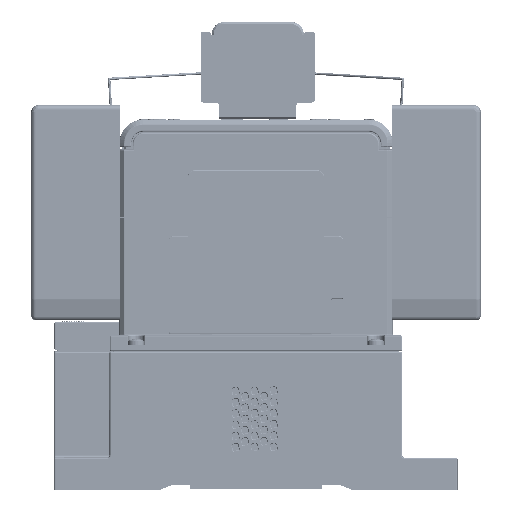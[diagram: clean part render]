
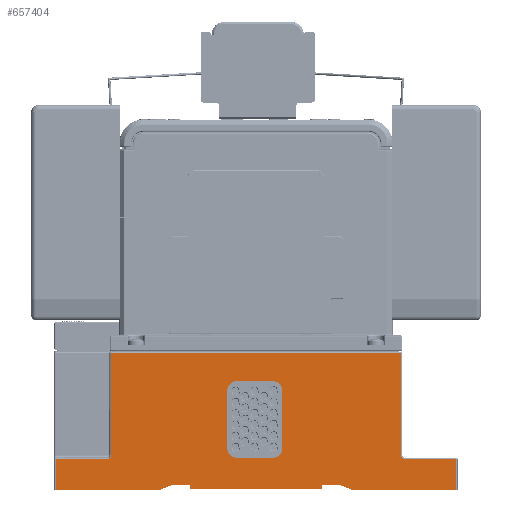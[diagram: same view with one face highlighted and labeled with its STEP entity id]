
A CAD part, left-side view. The second image highlights one B-rep face of the part: STEP entity #657404.
In plain terms, the highlighted planar face has unit normal (-1, 0, 0).
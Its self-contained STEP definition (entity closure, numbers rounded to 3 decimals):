
#108295=DIRECTION('',(0.,-1.,0.));
#108296=VECTOR('',#108295,43.4);
#108297=CARTESIAN_POINT('',(-60.,83.6,-2.));
#108298=LINE('',#108297,#108296);
#108641=DIRECTION('',(0.,0.,-1.));
#108642=VECTOR('',#108641,42.5);
#108643=CARTESIAN_POINT('',(-60.,60.5,55.));
#108644=LINE('',#108643,#108642);
#108645=CARTESIAN_POINT('',(-60.,62.,12.5));
#108646=DIRECTION('',(1.,0.,0.));
#108647=DIRECTION('',(0.,-1.,0.));
#108648=AXIS2_PLACEMENT_3D('',#108645,#108646,#108647);
#108655=DIRECTION('',(0.,-1.,0.));
#108656=VECTOR('',#108655,21.6);
#108657=CARTESIAN_POINT('',(-60.,83.6,11.));
#108658=LINE('',#108657,#108656);
#108659=DIRECTION('',(0.,-1.,0.));
#108660=VECTOR('',#108659,121.);
#108661=CARTESIAN_POINT('',(-60.,60.5,55.));
#108662=LINE('',#108661,#108660);
#108663=DIRECTION('',(0.,-1.,0.));
#108664=VECTOR('',#108663,21.6);
#108665=CARTESIAN_POINT('',(-60.,-62.,11.));
#108666=LINE('',#108665,#108664);
#108667=DIRECTION('',(0.,0.,1.));
#108668=VECTOR('',#108667,13.);
#108669=CARTESIAN_POINT('',(-60.,-83.6,-2.));
#108670=LINE('',#108669,#108668);
#108671=DIRECTION('',(0.,-0.928,-0.371));
#108672=VECTOR('',#108671,5.385);
#108673=CARTESIAN_POINT('',(-60.,-35.2,0.));
#108674=LINE('',#108673,#108672);
#108675=DIRECTION('',(0.,0.,-1.));
#108676=VECTOR('',#108675,1.5);
#108677=CARTESIAN_POINT('',(-60.,-27.75,0.));
#108678=LINE('',#108677,#108676);
#108679=DIRECTION('',(0.,-0.928,0.371));
#108680=VECTOR('',#108679,5.385);
#108681=CARTESIAN_POINT('',(-60.,40.2,-2.));
#108682=LINE('',#108681,#108680);
#108683=DIRECTION('',(0.,0.,-1.));
#108684=VECTOR('',#108683,13.);
#108685=CARTESIAN_POINT('',(-60.,83.6,11.));
#108686=LINE('',#108685,#108684);
#108687=CARTESIAN_POINT('',(-60.,8.,39.449));
#108688=DIRECTION('',(-1.,0.,0.));
#108689=DIRECTION('',(0.,0.,1.));
#108690=AXIS2_PLACEMENT_3D('',#108687,#108688,#108689);
#108692=DIRECTION('',(0.,0.,-1.));
#108693=VECTOR('',#108692,24.);
#108694=CARTESIAN_POINT('',(-60.,12.,39.449));
#108695=LINE('',#108694,#108693);
#108696=CARTESIAN_POINT('',(-60.,8.,15.449));
#108697=DIRECTION('',(-1.,0.,0.));
#108698=DIRECTION('',(0.,1.,0.));
#108699=AXIS2_PLACEMENT_3D('',#108696,#108697,#108698);
#108701=DIRECTION('',(0.,-1.,0.));
#108702=VECTOR('',#108701,15.);
#108703=CARTESIAN_POINT('',(-60.,8.,11.449));
#108704=LINE('',#108703,#108702);
#108705=CARTESIAN_POINT('',(-60.,-7.,15.449));
#108706=DIRECTION('',(-1.,0.,0.));
#108707=DIRECTION('',(0.,0.,-1.));
#108708=AXIS2_PLACEMENT_3D('',#108705,#108706,#108707);
#108710=DIRECTION('',(0.,0.,1.));
#108711=VECTOR('',#108710,24.);
#108712=CARTESIAN_POINT('',(-60.,-11.,15.449));
#108713=LINE('',#108712,#108711);
#108714=CARTESIAN_POINT('',(-60.,-7.,39.449));
#108715=DIRECTION('',(-1.,0.,0.));
#108716=DIRECTION('',(0.,-1.,0.));
#108717=AXIS2_PLACEMENT_3D('',#108714,#108715,#108716);
#108719=DIRECTION('',(0.,1.,0.));
#108720=VECTOR('',#108719,15.);
#108721=CARTESIAN_POINT('',(-60.,-7.,43.449));
#108722=LINE('',#108721,#108720);
#108748=DIRECTION('',(0.,0.,1.));
#108749=VECTOR('',#108748,42.5);
#108750=CARTESIAN_POINT('',(-60.,-60.5,12.5));
#108751=LINE('',#108750,#108749);
#108757=CARTESIAN_POINT('',(-60.,-62.,12.5));
#108758=DIRECTION('',(1.,0.,0.));
#108759=DIRECTION('',(0.,0.,-1.));
#108760=AXIS2_PLACEMENT_3D('',#108757,#108758,#108759);
#110857=DIRECTION('',(0.,-1.,0.));
#110858=VECTOR('',#110857,43.4);
#110859=CARTESIAN_POINT('',(-60.,-40.2,-2.));
#110860=LINE('',#110859,#110858);
#111151=DIRECTION('',(0.,-1.,0.));
#111152=VECTOR('',#111151,7.45);
#111153=CARTESIAN_POINT('',(-60.,-27.75,0.));
#111154=LINE('',#111153,#111152);
#111431=DIRECTION('',(0.,-1.,0.));
#111432=VECTOR('',#111431,7.45);
#111433=CARTESIAN_POINT('',(-60.,35.2,0.));
#111434=LINE('',#111433,#111432);
#111611=DIRECTION('',(0.,0.,-1.));
#111612=VECTOR('',#111611,1.5);
#111613=CARTESIAN_POINT('',(-60.,27.75,0.));
#111614=LINE('',#111613,#111612);
#111651=DIRECTION('',(0.,1.,0.));
#111652=VECTOR('',#111651,55.5);
#111653=CARTESIAN_POINT('',(-60.,-27.75,-1.5));
#111654=LINE('',#111653,#111652);
#418442=CARTESIAN_POINT('',(-60.,-83.6,-2.));
#418444=VERTEX_POINT('',#418442);
#418469=CARTESIAN_POINT('',(-60.,-60.5,55.));
#418470=VERTEX_POINT('',#418469);
#418473=CARTESIAN_POINT('',(-60.,60.5,55.));
#418474=VERTEX_POINT('',#418473);
#418482=CARTESIAN_POINT('',(-60.,83.6,11.));
#418484=VERTEX_POINT('',#418482);
#418497=CARTESIAN_POINT('',(-60.,-83.6,11.));
#418498=VERTEX_POINT('',#418497);
#418501=CARTESIAN_POINT('',(-60.,83.6,-2.));
#418502=VERTEX_POINT('',#418501);
#418555=CARTESIAN_POINT('',(-60.,-27.75,-1.5));
#418556=VERTEX_POINT('',#418555);
#418557=CARTESIAN_POINT('',(-60.,27.75,-1.5));
#418558=VERTEX_POINT('',#418557);
#418565=CARTESIAN_POINT('',(-60.,-27.75,0.));
#418566=VERTEX_POINT('',#418565);
#418567=CARTESIAN_POINT('',(-60.,27.75,0.));
#418568=VERTEX_POINT('',#418567);
#418685=CARTESIAN_POINT('',(-60.,-35.2,0.));
#418687=VERTEX_POINT('',#418685);
#418689=CARTESIAN_POINT('',(-60.,-40.2,-2.));
#418690=VERTEX_POINT('',#418689);
#418709=CARTESIAN_POINT('',(-60.,40.2,-2.));
#418710=CARTESIAN_POINT('',(-60.,35.2,0.));
#418711=VERTEX_POINT('',#418709);
#418712=VERTEX_POINT('',#418710);
#418739=CARTESIAN_POINT('',(-60.,60.5,12.5));
#418740=VERTEX_POINT('',#418739);
#418771=CARTESIAN_POINT('',(-60.,62.,11.));
#418772=VERTEX_POINT('',#418771);
#419863=CARTESIAN_POINT('',(-60.,-62.,11.));
#419864=VERTEX_POINT('',#419863);
#419865=CARTESIAN_POINT('',(-60.,-60.5,12.5));
#419866=VERTEX_POINT('',#419865);
#422241=CARTESIAN_POINT('',(-60.,8.,43.449));
#422242=CARTESIAN_POINT('',(-60.,12.,39.449));
#422243=VERTEX_POINT('',#422241);
#422244=VERTEX_POINT('',#422242);
#422245=CARTESIAN_POINT('',(-60.,12.,15.449));
#422246=VERTEX_POINT('',#422245);
#422247=CARTESIAN_POINT('',(-60.,8.,11.449));
#422248=VERTEX_POINT('',#422247);
#422249=CARTESIAN_POINT('',(-60.,-7.,11.449));
#422250=VERTEX_POINT('',#422249);
#422251=CARTESIAN_POINT('',(-60.,-11.,15.449));
#422252=VERTEX_POINT('',#422251);
#422253=CARTESIAN_POINT('',(-60.,-11.,39.449));
#422254=VERTEX_POINT('',#422253);
#422255=CARTESIAN_POINT('',(-60.,-7.,43.449));
#422256=VERTEX_POINT('',#422255);
#657347=CARTESIAN_POINT('',(-60.,84.1,0.));
#657348=DIRECTION('',(-1.,0.,0.));
#657349=DIRECTION('',(0.,-1.,0.));
#657350=AXIS2_PLACEMENT_3D('',#657347,#657348,#657349);
#657351=PLANE('',#657350);
#657353=ORIENTED_EDGE('',*,*,#657352,.T.);
#657354=ORIENTED_EDGE('',*,*,#657339,.F.);
#657355=ORIENTED_EDGE('',*,*,#657328,.F.);
#657357=ORIENTED_EDGE('',*,*,#657356,.T.);
#657359=ORIENTED_EDGE('',*,*,#657358,.F.);
#657361=ORIENTED_EDGE('',*,*,#657360,.F.);
#657363=ORIENTED_EDGE('',*,*,#657362,.T.);
#657365=ORIENTED_EDGE('',*,*,#657364,.F.);
#657367=ORIENTED_EDGE('',*,*,#657366,.F.);
#657369=ORIENTED_EDGE('',*,*,#657368,.F.);
#657371=ORIENTED_EDGE('',*,*,#657370,.F.);
#657373=ORIENTED_EDGE('',*,*,#657372,.T.);
#657375=ORIENTED_EDGE('',*,*,#657374,.T.);
#657377=ORIENTED_EDGE('',*,*,#657376,.F.);
#657379=ORIENTED_EDGE('',*,*,#657378,.F.);
#657381=ORIENTED_EDGE('',*,*,#657380,.F.);
#657382=ORIENTED_EDGE('',*,*,#656804,.F.);
#657383=ORIENTED_EDGE('',*,*,#656954,.F.);
#657384=EDGE_LOOP('',(#657353,#657354,#657355,#657357,#657359,#657361,#657363,
#657365,#657367,#657369,#657371,#657373,#657375,#657377,#657379,#657381,#657382,
#657383));
#657385=FACE_OUTER_BOUND('',#657384,.F.);
#657387=ORIENTED_EDGE('',*,*,#657386,.T.);
#657389=ORIENTED_EDGE('',*,*,#657388,.T.);
#657391=ORIENTED_EDGE('',*,*,#657390,.T.);
#657393=ORIENTED_EDGE('',*,*,#657392,.T.);
#657395=ORIENTED_EDGE('',*,*,#657394,.T.);
#657397=ORIENTED_EDGE('',*,*,#657396,.T.);
#657399=ORIENTED_EDGE('',*,*,#657398,.T.);
#657401=ORIENTED_EDGE('',*,*,#657400,.T.);
#657402=EDGE_LOOP('',(#657387,#657389,#657391,#657393,#657395,#657397,#657399,
#657401));
#657403=FACE_BOUND('',#657402,.F.);
#657404=ADVANCED_FACE('',(#657385,#657403),#657351,.T.);
#108649=CIRCLE('',#108648,1.5);
#108691=CIRCLE('',#108690,4.);
#108700=CIRCLE('',#108699,4.);
#108709=CIRCLE('',#108708,4.);
#108718=CIRCLE('',#108717,4.);
#108761=CIRCLE('',#108760,1.5);
#656804=EDGE_CURVE('',#418502,#418711,#108298,.T.);
#656954=EDGE_CURVE('',#418484,#418502,#108686,.T.);
#657328=EDGE_CURVE('',#418474,#418740,#108644,.T.);
#657339=EDGE_CURVE('',#418740,#418772,#108649,.T.);
#657352=EDGE_CURVE('',#418484,#418772,#108658,.T.);
#657356=EDGE_CURVE('',#418474,#418470,#108662,.T.);
#657358=EDGE_CURVE('',#419866,#418470,#108751,.T.);
#657360=EDGE_CURVE('',#419864,#419866,#108761,.T.);
#657362=EDGE_CURVE('',#419864,#418498,#108666,.T.);
#657364=EDGE_CURVE('',#418444,#418498,#108670,.T.);
#657366=EDGE_CURVE('',#418690,#418444,#110860,.T.);
#657368=EDGE_CURVE('',#418687,#418690,#108674,.T.);
#657370=EDGE_CURVE('',#418566,#418687,#111154,.T.);
#657372=EDGE_CURVE('',#418566,#418556,#108678,.T.);
#657374=EDGE_CURVE('',#418556,#418558,#111654,.T.);
#657376=EDGE_CURVE('',#418568,#418558,#111614,.T.);
#657378=EDGE_CURVE('',#418712,#418568,#111434,.T.);
#657380=EDGE_CURVE('',#418711,#418712,#108682,.T.);
#657386=EDGE_CURVE('',#422243,#422244,#108691,.T.);
#657388=EDGE_CURVE('',#422244,#422246,#108695,.T.);
#657390=EDGE_CURVE('',#422246,#422248,#108700,.T.);
#657392=EDGE_CURVE('',#422248,#422250,#108704,.T.);
#657394=EDGE_CURVE('',#422250,#422252,#108709,.T.);
#657396=EDGE_CURVE('',#422252,#422254,#108713,.T.);
#657398=EDGE_CURVE('',#422254,#422256,#108718,.T.);
#657400=EDGE_CURVE('',#422256,#422243,#108722,.T.);
